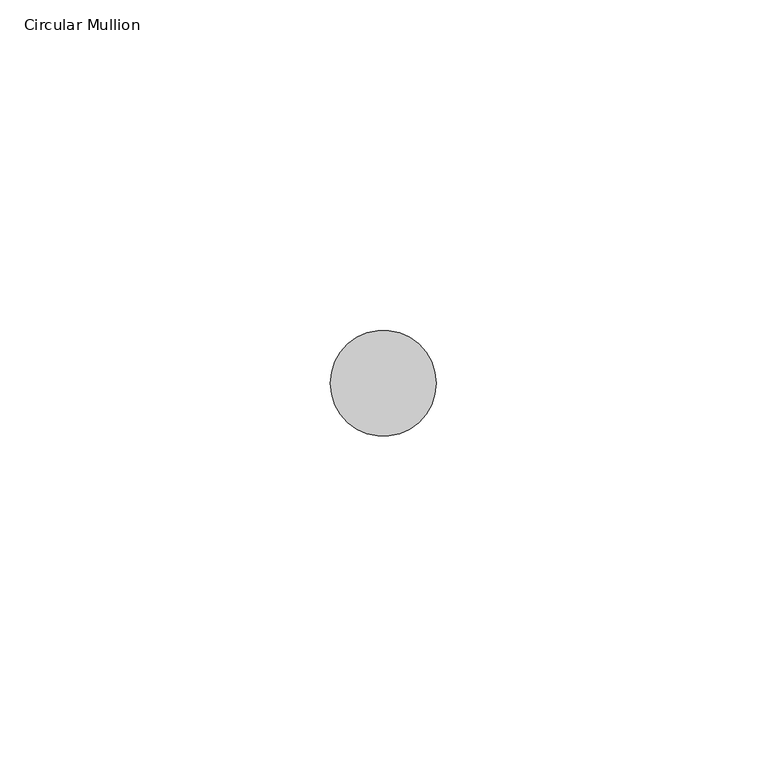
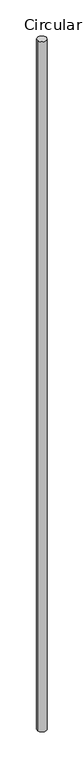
"""IFC4 building model written with IfcOpenShell, lengths in millimetres: member geometry, Circular Mullion : ARQ_HERR_16mm."""

from ifc_helpers import new_model, si_unit, point, frame, origin, origin_2d, place, context, project, spatial, circle_curve, trimmed, segment, composite_curve, outline, extrude, source, transform, mapped, element, save


def circular_mullion_edf12572(model_context):
    return source(origin(), model_context, "Body", "SweptSolid", [
        extrude(outline(composite_curve([segment(trimmed(circle_curve(origin_2d(), 8.0), [point((8.0, 0.0))], [point((-8.0, 0.0))], False, "CARTESIAN"), True, "CONTINUOUS"), segment(trimmed(circle_curve(origin_2d(), 8.0), [point((-8.0, 0.0))], [point((8.0, 0.0))], False, "CARTESIAN"), True, "CONTINUOUS")], self_intersect=False)), frame((0.0, 0.0, -1292.1106187), z_axis=(0.0, 0.0, 1.0), x_axis=(1.0, 0.0, 0.0)), (0.0, 0.0, 1.0), 1292.1106187),
    ])


if __name__ == "__main__":
    model = new_model("IFC4")
    model_context = context("Model", 3, world=origin())
    ifc_project = project(units=[si_unit("LENGTHUNIT", "METRE", prefix="MILLI")], contexts=[model_context])
    site = spatial("IfcSite", under=ifc_project)
    building = spatial("IfcBuilding", under=site)
    placement = place(None, origin())
    circular_mullion_shape = circular_mullion_edf12572(model_context)
    element("IfcMember", 1, ObjectType="Circular Mullion : ARQ_HERR_16mm", at=placement, inside=building, context=model_context, shape_type="MappedRepresentation", body=[
        mapped(circular_mullion_shape, transform((0.0, 0.0, 0.0), x_axis=(1.0, 0.0, 0.0), y_axis=(0.0, 1.0, 0.0), z_axis=(0.0, 0.0, 1.0))),
    ])
    save(model, "model.ifc")
